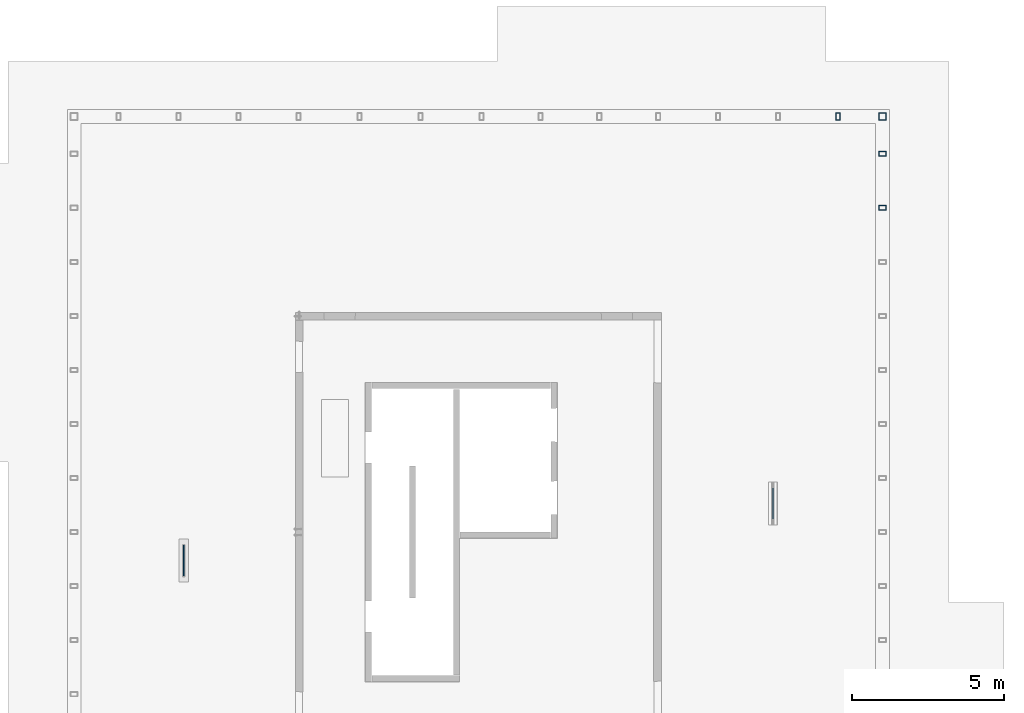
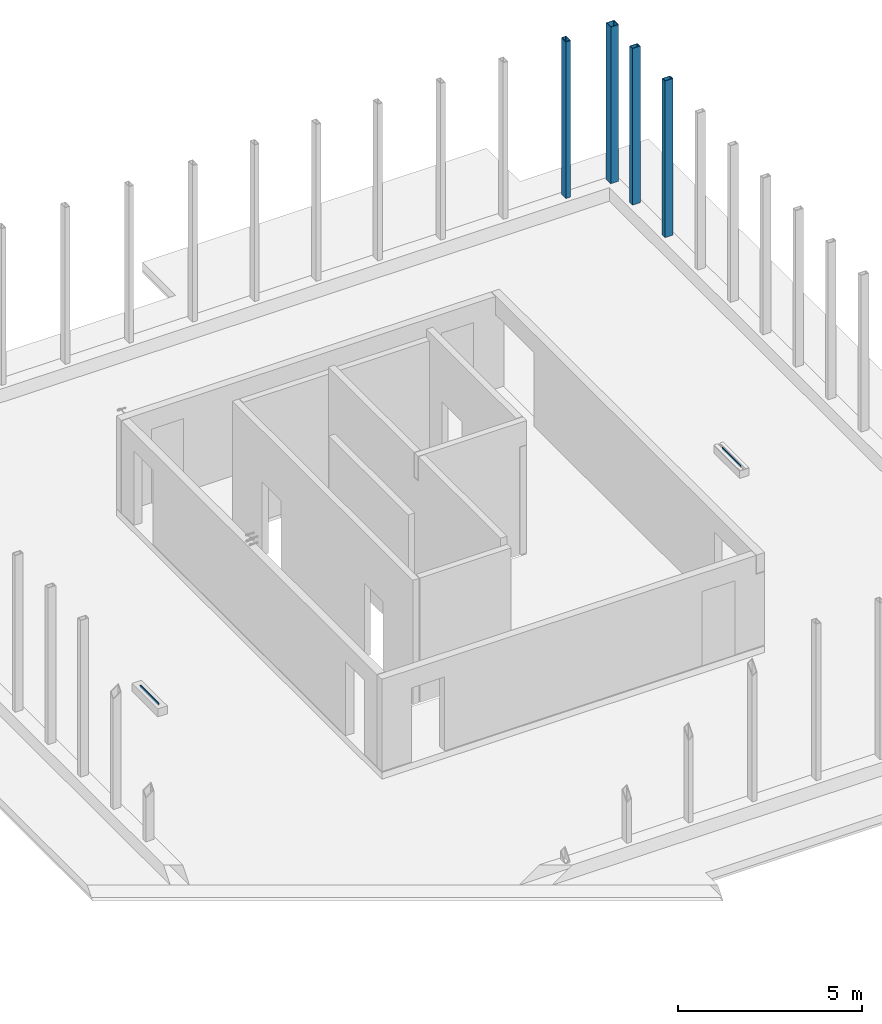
# One storey, part 5 of 9: 4 columns, 2 beams.
"""IFC2X3 building model written with IfcOpenShell, lengths in millimetres."""

from ifc_helpers import new_model, entity, si_unit, converted_unit, derived_unit, direction, frame, frame_2d, origin, origin_2d_with_axis, place, context, subcontext, project, spatial, polyline, circle_curve, parameter, trimmed, segment, composite_curve, rectangle, outline, extrude, source, transform, mapped, material, type_object, type_shapes, element, save


model = new_model("IFC2X3")

# Units and contexts
model_context = context("Model", 3, precision=0.01, world=origin(), true_north=direction((6.12303176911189e-17, 1.0)))
body_context = subcontext(model_context, "Body", "Model", "MODEL_VIEW")
ifc_project = project(units=[si_unit("LENGTHUNIT", "METRE", prefix="MILLI"), si_unit("AREAUNIT", "SQUARE_METRE"), si_unit("VOLUMEUNIT", "CUBIC_METRE"), converted_unit("PLANEANGLEUNIT", "DEGREE", entity("IfcRatioMeasure", 0.0174532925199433), si_unit("PLANEANGLEUNIT", "RADIAN"), dimensions=[0, 0, 0, 0, 0, 0, 0]), si_unit("MASSUNIT", "GRAM", prefix="KILO"), derived_unit("MASSDENSITYUNIT", [(si_unit("MASSUNIT", "GRAM", prefix="KILO"), 1), (si_unit("LENGTHUNIT", "METRE"), -3)]), si_unit("TIMEUNIT", "SECOND"), si_unit("FREQUENCYUNIT", "HERTZ"), si_unit("THERMODYNAMICTEMPERATUREUNIT", "DEGREE_CELSIUS"), derived_unit("THERMALTRANSMITTANCEUNIT", [(si_unit("MASSUNIT", "GRAM", prefix="KILO"), 1), (si_unit("THERMODYNAMICTEMPERATUREUNIT", "KELVIN"), -1), (si_unit("TIMEUNIT", "SECOND"), -3)]), derived_unit("VOLUMETRICFLOWRATEUNIT", [(si_unit("LENGTHUNIT", "METRE"), 3), (si_unit("TIMEUNIT", "SECOND"), -1)]), si_unit("ELECTRICCURRENTUNIT", "AMPERE"), si_unit("ELECTRICVOLTAGEUNIT", "VOLT"), si_unit("POWERUNIT", "WATT"), si_unit("FORCEUNIT", "NEWTON", prefix="KILO"), si_unit("ILLUMINANCEUNIT", "LUX"), si_unit("LUMINOUSFLUXUNIT", "LUMEN"), si_unit("LUMINOUSINTENSITYUNIT", "CANDELA"), derived_unit("USERDEFINED", [(si_unit("MASSUNIT", "GRAM", prefix="KILO"), -1), (si_unit("LENGTHUNIT", "METRE"), -2), (si_unit("TIMEUNIT", "SECOND"), 3), (si_unit("LUMINOUSFLUXUNIT", "LUMEN"), 1)]), derived_unit("LINEARVELOCITYUNIT", [(si_unit("LENGTHUNIT", "METRE"), 1), (si_unit("TIMEUNIT", "SECOND"), -1)]), si_unit("PRESSUREUNIT", "PASCAL"), derived_unit("USERDEFINED", [(si_unit("LENGTHUNIT", "METRE"), -2), (si_unit("MASSUNIT", "GRAM", prefix="KILO"), 1), (si_unit("TIMEUNIT", "SECOND"), -2)])], contexts=[model_context])

# Site, building, storey
site_placement = place(None, origin())
site = spatial("IfcSite", under=ifc_project, at=site_placement, Name="Default", CompositionType="ELEMENT")
building_placement = place(site_placement, origin())
building = spatial("IfcBuilding", under=site, at=building_placement, Name="niet gebruiken", CompositionType="ELEMENT")
storey_placement = place(building_placement, frame((0.0, 0.0, 178840.0)))
storey = spatial("IfcBuildingStorey", under=building, at=storey_placement, Name="57 zevenenvijftigste verdieping", CompositionType="ELEMENT", Elevation=178840.0)

# Columns
ifc_material = material(Name="NLRS_h2_staal")
column_type_1 = type_object("IfcColumnType", Name="kolom buisprofiel rechthoekig RHSH_250x150x16", PredefinedType="COLUMN", material=ifc_material)
shared_shape_1 = source(origin(), body_context, "Body", "SweptSolid", [
    extrude(outline(polyline([(-125.0, -75.0), (125.0, -75.0), (125.0, 75.0), (-125.0, 75.0), (-125.0, -75.0)]), holes=[composite_curve([segment(trimmed(circle_curve(frame_2d((-96.5, -46.5), x_axis=(0.0, 1.0)), 12.5), [parameter(90.0)], [parameter(180.0)], True, "PARAMETER"), False, "CONTINUOUS"), segment(polyline([(-109.0, -46.5), (-109.0, 46.5)]), True, "CONTINUOUS"), segment(trimmed(circle_curve(frame_2d((-96.5, 46.5), x_axis=(0.0, 1.0)), 12.5), [parameter(360.0)], [parameter(89.9999999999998)], True, "PARAMETER"), False, "CONTINUOUS"), segment(polyline([(-96.5, 59.0), (96.5000000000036, 59.0)]), True, "CONTINUOUS"), segment(trimmed(circle_curve(frame_2d((96.5, 46.5), x_axis=(0.0, 1.0)), 12.5), [parameter(270.0)], [parameter(360.0)], True, "PARAMETER"), False, "CONTINUOUS"), segment(polyline([(109.0, 46.5), (109.0, -46.5)]), True, "CONTINUOUS"), segment(trimmed(circle_curve(frame_2d((96.5, -46.5), x_axis=(0.0, 1.0)), 12.5), [parameter(180.0)], [parameter(270.0)], True, "PARAMETER"), False, "CONTINUOUS"), segment(polyline([(96.5000000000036, -59.0), (-96.5, -59.0)]), True, "CONTINUOUS")], self_intersect=False)]), frame((153550.0, 31130.0, 179010.0), z_axis=(0.0, 0.0, 1.0), x_axis=(0.0, -1.0, 0.0)), (0.0, 0.0, 1.0), 5190.00000000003),
])
type_shapes(column_type_1, [shared_shape_1])
column_1_placement = place(storey_placement, frame((0.0, 0.0, -178840.0)))
element("IfcColumn", 1, at=column_1_placement, inside=storey, type_object=column_type_1, material=ifc_material, Name="NLRS_28.11_SCO_TLB_stalen kolom buisprofiel rechthoekig_gen:kolom buisprofiel rechthoekig RHSH_250x150x16", ObjectType="kolom buisprofiel rechthoekig RHSH_250x150x16", context=body_context, shape_type="MappedRepresentation", body=[
    mapped(shared_shape_1, transform((0.0, 0.0, 0.0), scale=1.0)),
])
column_type_2 = type_object("IfcColumnType", Name="kolom buisprofiel rechthoekig RHSH_250x150x16", PredefinedType="COLUMN", material=ifc_material)
shared_shape_2 = source(origin(), body_context, "Body", "SweptSolid", [
    extrude(outline(polyline([(-125.0, -75.0), (125.0, -75.0), (125.0, 75.0), (-125.0, 75.0), (-125.0, -75.0)]), holes=[composite_curve([segment(trimmed(circle_curve(frame_2d((-96.5, -46.5), x_axis=(0.0, 1.0)), 12.5), [parameter(90.0)], [parameter(180.0)], True, "PARAMETER"), False, "CONTINUOUS"), segment(polyline([(-109.0, -46.4999999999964), (-109.0, 46.5)]), True, "CONTINUOUS"), segment(trimmed(circle_curve(frame_2d((-96.5, 46.5), x_axis=(0.0, 1.0)), 12.5), [parameter(360.0)], [parameter(89.9999999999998)], True, "PARAMETER"), False, "CONTINUOUS"), segment(polyline([(-96.5, 59.0), (96.5, 59.0)]), True, "CONTINUOUS"), segment(trimmed(circle_curve(frame_2d((96.5, 46.5), x_axis=(0.0, 1.0)), 12.5), [parameter(270.0)], [parameter(360.0)], True, "PARAMETER"), False, "CONTINUOUS"), segment(polyline([(109.0, 46.5), (109.0, -46.4999999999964)]), True, "CONTINUOUS"), segment(trimmed(circle_curve(frame_2d((96.5, -46.5), x_axis=(0.0, 1.0)), 12.5), [parameter(180.0)], [parameter(270.0)], True, "PARAMETER"), False, "CONTINUOUS"), segment(polyline([(96.5, -59.0), (-96.5, -59.0)]), True, "CONTINUOUS")], self_intersect=False)]), frame((155005.0, 28135.0, 179010.0)), (0.0, 0.0, 1.0), 5190.00000000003),
])
type_shapes(column_type_2, [shared_shape_2])
column_2_placement = place(storey_placement, frame((0.0, 0.0, -178840.0)))
element("IfcColumn", 2, at=column_2_placement, inside=storey, type_object=column_type_2, material=ifc_material, Name="NLRS_28.11_SCO_TLB_stalen kolom buisprofiel rechthoekig_gen:kolom buisprofiel rechthoekig RHSH_250x150x16", ObjectType="kolom buisprofiel rechthoekig RHSH_250x150x16", context=body_context, shape_type="MappedRepresentation", body=[
    mapped(shared_shape_2, transform((0.0, 0.0, 0.0), scale=1.0)),
])
column_type_3 = type_object("IfcColumnType", Name="kolom buisprofiel rechthoekig RHSH_250x150x16", PredefinedType="COLUMN", material=ifc_material)
shared_shape_3 = source(origin(), body_context, "Body", "SweptSolid", [
    extrude(outline(polyline([(-125.0, -75.0), (125.0, -75.0), (125.0, 75.0), (-125.0, 75.0), (-125.0, -75.0)]), holes=[composite_curve([segment(trimmed(circle_curve(frame_2d((-96.5, -46.5000000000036), x_axis=(0.0, 1.0)), 12.5), [parameter(90.0)], [parameter(180.0)], True, "PARAMETER"), False, "CONTINUOUS"), segment(polyline([(-109.0, -46.4999999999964), (-109.0, 46.5)]), True, "CONTINUOUS"), segment(trimmed(circle_curve(frame_2d((-96.5, 46.5), x_axis=(0.0, 1.0)), 12.5), [parameter(360.0)], [parameter(89.9999999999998)], True, "PARAMETER"), False, "CONTINUOUS"), segment(polyline([(-96.5, 59.0), (96.5, 59.0)]), True, "CONTINUOUS"), segment(trimmed(circle_curve(frame_2d((96.5, 46.5), x_axis=(0.0, 1.0)), 12.5), [parameter(270.0)], [parameter(360.0)], True, "PARAMETER"), False, "CONTINUOUS"), segment(polyline([(109.0, 46.5), (109.0, -46.4999999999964)]), True, "CONTINUOUS"), segment(trimmed(circle_curve(frame_2d((96.5, -46.5000000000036), x_axis=(0.0, 1.0)), 12.5), [parameter(180.0)], [parameter(270.0)], True, "PARAMETER"), False, "CONTINUOUS"), segment(polyline([(96.5, -59.0), (-96.5, -59.0)]), True, "CONTINUOUS")], self_intersect=False)]), frame((155005.0, 29907.4999999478, 179010.0)), (0.0, 0.0, 1.0), 5190.00000000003),
])
type_shapes(column_type_3, [shared_shape_3])
column_3_placement = place(storey_placement, frame((0.0, 0.0, -178840.0)))
element("IfcColumn", 3, at=column_3_placement, inside=storey, type_object=column_type_3, material=ifc_material, Name="NLRS_28.11_SCO_TLB_stalen kolom buisprofiel rechthoekig_gen:kolom buisprofiel rechthoekig RHSH_250x150x16", ObjectType="kolom buisprofiel rechthoekig RHSH_250x150x16", context=body_context, shape_type="MappedRepresentation", body=[
    mapped(shared_shape_3, transform((0.0, 0.0, 0.0), scale=1.0)),
])
column_type_4 = type_object("IfcColumnType", Name="kolom buisprofiel warmgevormd vierkant SHSH_250x250x16", PredefinedType="COLUMN", material=ifc_material)
shared_shape_4 = source(origin(), body_context, "Body", "SweptSolid", [
    extrude(outline(polyline([(-125.0, -125.0), (125.0, -125.0), (125.0, 125.0), (-125.0, 125.0), (-125.0, -125.0)]), holes=[composite_curve([segment(trimmed(circle_curve(frame_2d((-99.0, -99.0), x_axis=(0.0, 1.0)), 10.0), [parameter(90.0000000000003)], [parameter(180.0)], True, "PARAMETER"), False, "CONTINUOUS"), segment(polyline([(-109.0, -99.0), (-109.0, 99.0)]), True, "CONTINUOUS"), segment(trimmed(circle_curve(frame_2d((-99.0, 99.0), x_axis=(0.0, 1.0)), 10.0), [parameter(0.0)], [parameter(89.9999999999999)], True, "PARAMETER"), False, "CONTINUOUS"), segment(polyline([(-99.0, 109.0), (99.0, 109.0)]), True, "CONTINUOUS"), segment(trimmed(circle_curve(frame_2d((99.0, 99.0), x_axis=(0.0, 1.0)), 10.0), [parameter(270.0)], [parameter(360.0)], True, "PARAMETER"), False, "CONTINUOUS"), segment(polyline([(109.0, 99.0), (109.0, -99.0)]), True, "CONTINUOUS"), segment(trimmed(circle_curve(frame_2d((99.0, -99.0), x_axis=(0.0, 1.0)), 10.0), [parameter(180.0)], [parameter(270.0)], True, "PARAMETER"), False, "CONTINUOUS"), segment(polyline([(99.0, -109.0), (-99.0, -109.0)]), True, "CONTINUOUS")], self_intersect=False)]), frame((155005.0, 31130.0, 179010.0), z_axis=(0.0, 0.0, 1.0), x_axis=(0.0, -1.0, 0.0)), (0.0, 0.0, 1.0), 5190.00000000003),
])
type_shapes(column_type_4, [shared_shape_4])
column_4_placement = place(storey_placement, frame((0.0, 0.0, -178840.0)))
element("IfcColumn", 4, at=column_4_placement, inside=storey, type_object=column_type_4, material=ifc_material, Name="NLRS_28.11_SCO_TLB_stalen kolom buisprofiel warmgevormd vierkant_gen:kolom buisprofiel warmgevormd vierkant SHSH_250x250x16", ObjectType="kolom buisprofiel warmgevormd vierkant SHSH_250x250x16", context=body_context, shape_type="MappedRepresentation", body=[
    mapped(shared_shape_4, transform((0.0, 0.0, 0.0), scale=1.0)),
])

# Beams
beam_type = type_object("IfcBeamType", Name="ligger stripstaal RECT_80x20 gedraaid", PredefinedType="BEAM", material=ifc_material)
shared_shape_5 = source(origin(), body_context, "Body", "SweptSolid", [
    extrude(rectangle(XDim=999.999999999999, YDim=20.0, at=origin_2d_with_axis()), frame((0.0, 0.0, -40.0), z_axis=(0.0, 0.0, 1.0), x_axis=(-1.0, 0.0, 0.0)), (0.0, 0.0, 1.0), 80.0),
    extrude(rectangle(XDim=999.999999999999, YDim=20.0, at=origin_2d_with_axis()), frame((0.0, 0.0, -40.0), z_axis=(0.0, 0.0, 1.0), x_axis=(-1.0, 0.0, 0.0)), (0.0, 0.0, 1.0), 80.0),
])
type_shapes(beam_type, [shared_shape_5])
for number, where, z_axis, x_axis, name in (
    (5, (151410.0, 18435.0, -60.0), (0.0, 0.0, 1.0), (0.0, -1.0, 0.0), "NLRS_28.11_SF_WPB_stalen ligger stripstaal_gen:ligger stripstaal RECT_80x20 gedraaid"),
    (6, (132090.0, 16565.0, -45.0), (0.0, 0.0, 1.0), (0.0, 1.0, 0.0), "NLRS_28.11_SF_WPB_stalen ligger stripstaal_gen:ligger stripstaal RECT_80x20 gedraaid"),
):
    element("IfcBeam", number, at=place(storey_placement, frame(where, z_axis=z_axis, x_axis=x_axis)), inside=storey, type_object=beam_type, material=ifc_material, Name=name, ObjectType="ligger stripstaal RECT_80x20 gedraaid", context=body_context, shape_type="MappedRepresentation", body=[
        mapped(shared_shape_5, transform((0.0, 0.0, 0.0), scale=1.0)),
    ])

save(model, "model.ifc")
